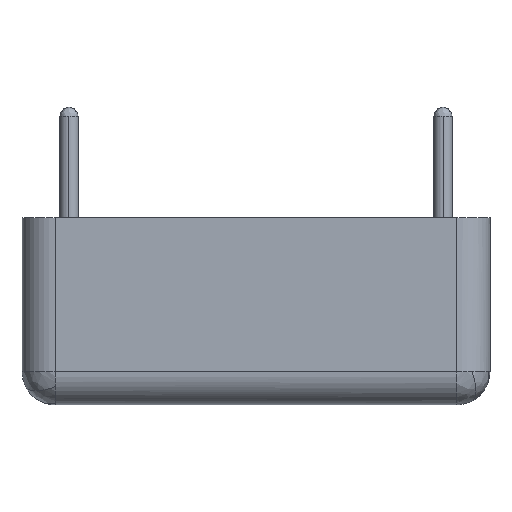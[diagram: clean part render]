
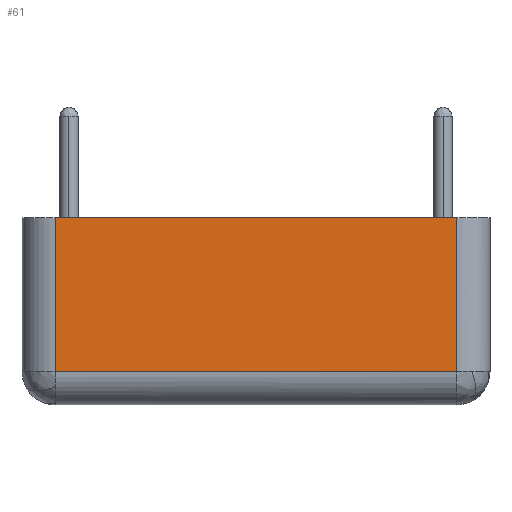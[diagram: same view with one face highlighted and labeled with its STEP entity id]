
A CAD part, left-side view. The second image highlights one B-rep face of the part: STEP entity #61.
In plain terms, the highlighted planar face has unit normal (-1, 0, 0).
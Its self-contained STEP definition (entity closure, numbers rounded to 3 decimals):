
#61 = ADVANCED_FACE ( 'NONE', ( #908 ), #922, .T. ) ;
#66 = CARTESIAN_POINT ( 'NONE',  ( -12.7, -10.9, 10.16 ) ) ;
#190 = ORIENTED_EDGE ( 'NONE', *, *, #929, .F. ) ;
#253 = VERTEX_POINT ( 'NONE', #1084 ) ;
#334 = DIRECTION ( 'NONE',  ( 0., 0., -1. ) ) ;
#344 = CARTESIAN_POINT ( 'NONE',  ( -12.7, -10.9, 0. ) ) ;
#352 = DIRECTION ( 'NONE',  ( 0., 0., -1. ) ) ;
#353 = CARTESIAN_POINT ( 'NONE',  ( -12.7, 10.9, 0. ) ) ;
#363 = CARTESIAN_POINT ( 'NONE',  ( -12.7, 10.9, 1.8 ) ) ;
#374 = DIRECTION ( 'NONE',  ( 0., -1., 0. ) ) ;
#375 = CARTESIAN_POINT ( 'NONE',  ( -12.7, 0., 10.16 ) ) ;
#413 = ORIENTED_EDGE ( 'NONE', *, *, #699, .T. ) ;
#467 = VECTOR ( 'NONE', #352, 1000. ) ;
#499 = VECTOR ( 'NONE', #697, 1000. ) ;
#587 = ORIENTED_EDGE ( 'NONE', *, *, #968, .T. ) ;
#672 = LINE ( 'NONE', #695, #499 ) ;
#677 = CARTESIAN_POINT ( 'NONE',  ( -12.7, 10.9, 10.16 ) ) ;
#685 = VERTEX_POINT ( 'NONE', #677 ) ;
#695 = CARTESIAN_POINT ( 'NONE',  ( -12.7, 12.7, 1.8 ) ) ;
#697 = DIRECTION ( 'NONE',  ( 0., -1., 0. ) ) ;
#699 = EDGE_CURVE ( 'NONE', #996, #253, #672, .T. ) ;
#860 = LINE ( 'NONE', #344, #1307 ) ;
#908 = FACE_OUTER_BOUND ( 'NONE', #1012, .T. ) ;
#909 = CARTESIAN_POINT ( 'NONE',  ( -12.7, 12.7, 0. ) ) ;
#911 = LINE ( 'NONE', #375, #1320 ) ;
#922 = PLANE ( 'NONE',  #966 ) ;
#924 = DIRECTION ( 'NONE',  ( -1., 0., 0. ) ) ;
#927 = DIRECTION ( 'NONE',  ( 0., -1., 0. ) ) ;
#929 = EDGE_CURVE ( 'NONE', #685, #1276, #911, .T. ) ;
#966 = AXIS2_PLACEMENT_3D ( 'NONE', #909, #924, #927 ) ;
#968 = EDGE_CURVE ( 'NONE', #685, #996, #1031, .T. ) ;
#996 = VERTEX_POINT ( 'NONE', #363 ) ;
#998 = EDGE_CURVE ( 'NONE', #1276, #253, #860, .T. ) ;
#1012 = EDGE_LOOP ( 'NONE', ( #1319, #190, #587, #413 ) ) ;
#1031 = LINE ( 'NONE', #353, #467 ) ;
#1084 = CARTESIAN_POINT ( 'NONE',  ( -12.7, -10.9, 1.8 ) ) ;
#1276 = VERTEX_POINT ( 'NONE', #66 ) ;
#1307 = VECTOR ( 'NONE', #334, 1000. ) ;
#1319 = ORIENTED_EDGE ( 'NONE', *, *, #998, .F. ) ;
#1320 = VECTOR ( 'NONE', #374, 1000. ) ;
